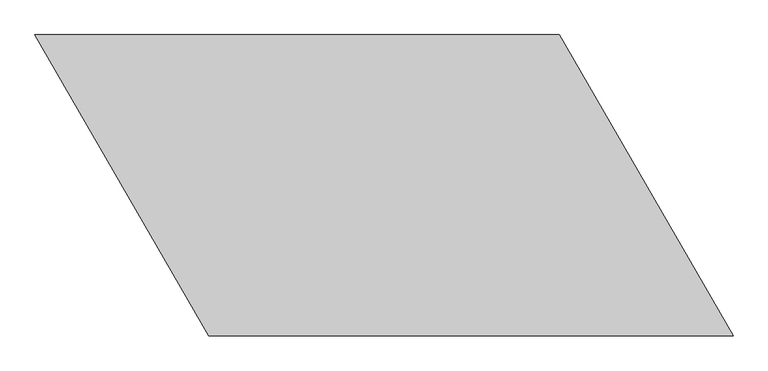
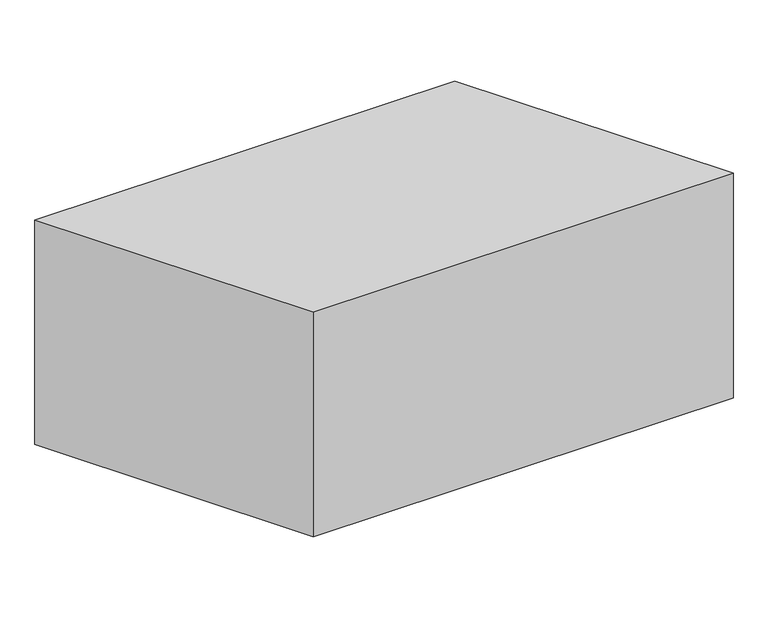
"""IFC4 building model written with IfcOpenShell, lengths in millimetres: furniture geometry, Hive Parallelogram Ottoman Right-Handed : Hive Parallelogram Ottoman Right-Handed."""

from ifc_helpers import new_model, si_unit, origin, origin_with_axes, place, context, project, spatial, polyline, outline, extrude, source, transform, mapped, element, save


def furniture_e2809db4(model_context):
    return source(origin(), model_context, "Body", "SweptSolid", [
        extrude(outline(polyline([(414.7223219, -5599.4190997), (690.0, -6076.2140997), (-140.0, -6076.2140997), (-415.277701, -5599.4190997), (414.7223219, -5599.4190997)])), origin_with_axes(), (0.0, 0.0, 1.0), 470.0),
    ])


if __name__ == "__main__":
    model = new_model("IFC4")
    model_context = context("Model", 3, world=origin())
    ifc_project = project(units=[si_unit("LENGTHUNIT", "METRE", prefix="MILLI")], contexts=[model_context])
    site = spatial("IfcSite", under=ifc_project)
    building = spatial("IfcBuilding", under=site)
    placement = place(None, origin())
    furniture_shape = furniture_e2809db4(model_context)
    element("IfcFurniture", 1, ObjectType="Hive Parallelogram Ottoman Right-Handed : Hive Parallelogram Ottoman Right-Handed", at=placement, inside=building, context=model_context, shape_type="MappedRepresentation", body=[
        mapped(furniture_shape, transform((0.0, 0.0, 0.0), x_axis=(1.0, 0.0, 0.0), y_axis=(0.0, 1.0, 0.0), z_axis=(0.0, 0.0, 1.0))),
    ])
    save(model, "model.ifc")
